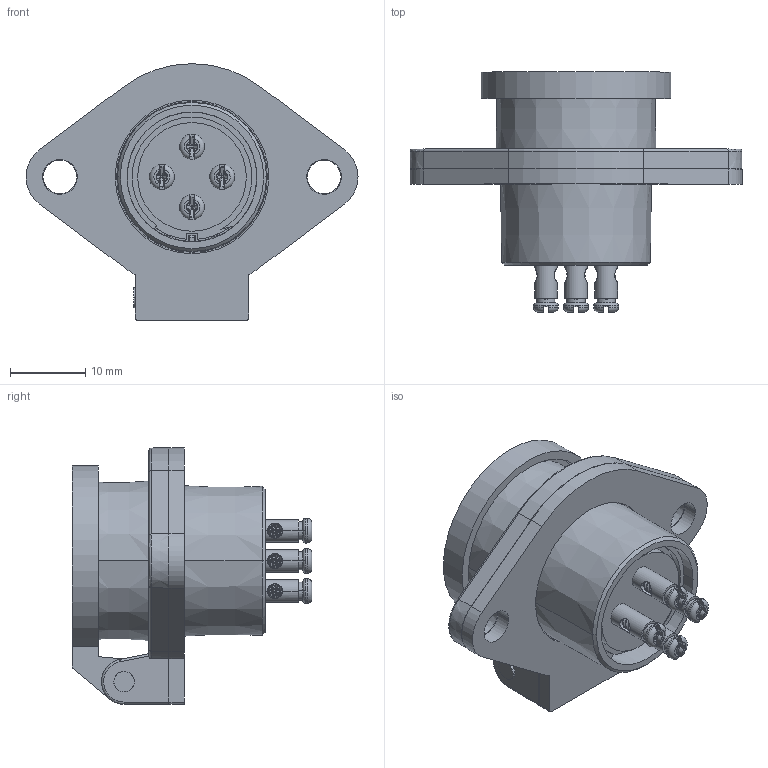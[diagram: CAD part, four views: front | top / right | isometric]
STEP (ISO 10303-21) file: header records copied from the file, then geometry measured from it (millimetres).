
FILE_DESCRIPTION((''),'2;1');
FILE_NAME('159','2019-07-16T',('Administrator'),(''),'CREO PARAMETRIC BY PTC INC, 2016130','CREO PARAMETRIC BY PTC INC, 2016130','');
FILE_SCHEMA(('CONFIG_CONTROL_DESIGN'));
Products named in the file (1): 159
Bounding box: 44 x 31.8 x 34 mm (x, y, z)
Volume: 11493.8 mm3; surface area: 7406.1 mm2
Topology: 1 solids, 1 shells, 687 faces, 2018 edges, 1333 vertices
Faces by surface type: plane 248, cylinder 227, bspline 96, extrusion 57, torus 29, cone 28, sphere 2
Entity records: 41108 total; most frequent: CARTESIAN_POINT 24074, ORIENTED_EDGE 4032, DIRECTION 2782, EDGE_CURVE 2016, VERTEX_POINT 1333, VECTOR 994, LINE 937, AXIS2_PLACEMENT_3D 894
